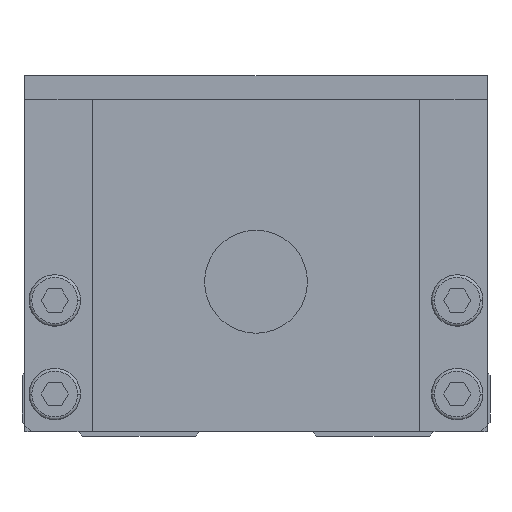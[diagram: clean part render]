
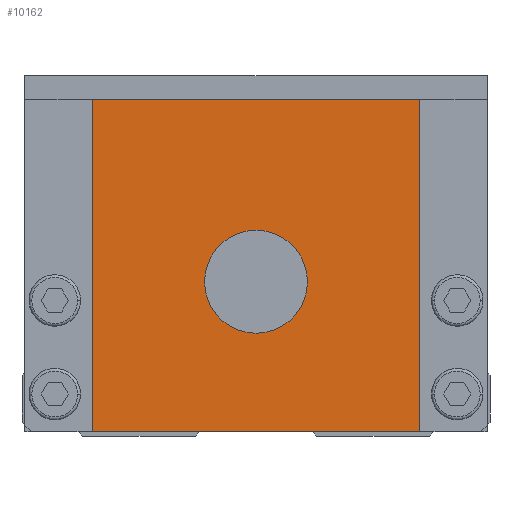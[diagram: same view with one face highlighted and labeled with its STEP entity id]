
A CAD part, front view. The second image highlights one B-rep face of the part: STEP entity #10162.
In plain terms, the highlighted planar face has unit normal (0, -1, 0).
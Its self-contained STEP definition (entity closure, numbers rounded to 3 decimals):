
#4122=EDGE_CURVE('',#9472,#8546,#11155,.T.);
#5362=VERTEX_POINT('',#12543);
#5474=VERTEX_POINT('',#12665);
#6438=EDGE_CURVE('',#5474,#9472,#13746,.T.);
#6750=EDGE_CURVE('',#8546,#7068,#14080,.T.);
#7068=VERTEX_POINT('',#14423);
#7526=EDGE_CURVE('',#10046,#5362,#14940,.T.);
#7992=EDGE_CURVE('',#5474,#7068,#15459,.T.);
#8546=VERTEX_POINT('',#16078);
#9472=VERTEX_POINT('',#17108);
#10046=VERTEX_POINT('',#17735);
#10162=ADVANCED_FACE('',(#17862,#17863),#17864,.F.);
#10278=EDGE_CURVE('',#5362,#10046,#17989,.T.);
#11155=LINE('',#19186,#19187);
#12543=CARTESIAN_POINT('',(5.5,0.0,16.5));
#12665=CARTESIAN_POINT('',(-17.5,0.0,36.0));
#13746=LINE('',#22900,#22901);
#14080=LINE('',#23513,#23514);
#14423=CARTESIAN_POINT('',(-17.5,0.0,0.5));
#14940=CIRCLE('',#24740,5.5);
#15459=LINE('',#25469,#25470);
#16078=CARTESIAN_POINT('',(17.5,0.0,0.5));
#17108=CARTESIAN_POINT('',(17.5,0.0,36.0));
#17735=CARTESIAN_POINT('',(-5.5,0.0,16.5));
#17862=FACE_BOUND('',#28945,.T.);
#17863=FACE_OUTER_BOUND('',#28946,.T.);
#17864=PLANE('',#28947);
#17989=CIRCLE('',#29123,5.5);
#19186=CARTESIAN_POINT('',(17.5,0.0,18.25));
#19187=VECTOR('',#30252,1.0);
#22900=CARTESIAN_POINT('',(0.0,0.0,36.0));
#22901=VECTOR('',#33350,1.0);
#23513=CARTESIAN_POINT('',(0.0,0.0,0.5));
#23514=VECTOR('',#33637,1.0);
#24740=AXIS2_PLACEMENT_3D('',#34586,#34587,#34588);
#25469=CARTESIAN_POINT('',(-17.5,0.0,18.25));
#25470=VECTOR('',#35201,1.0);
#28945=EDGE_LOOP('',(#37890,#37891));
#28946=EDGE_LOOP('',(#37892,#37893,#37894,#37895));
#28947=AXIS2_PLACEMENT_3D('',#37896,#37897,#37898);
#29123=AXIS2_PLACEMENT_3D('',#38024,#38025,#38026);
#30252=DIRECTION('',(0.0,0.0,-1.0));
#33350=DIRECTION('',(1.0,0.0,0.0));
#33637=DIRECTION('',(-1.0,0.0,0.0));
#34586=CARTESIAN_POINT('',(0.0,0.0,16.5));
#34587=DIRECTION('',(-0.0,1.0,0.0));
#34588=DIRECTION('',(1.0,0.0,0.0));
#35201=DIRECTION('',(0.0,0.0,-1.0));
#37890=ORIENTED_EDGE('',*,*,#10278,.T.);
#37891=ORIENTED_EDGE('',*,*,#7526,.T.);
#37892=ORIENTED_EDGE('',*,*,#7992,.T.);
#37893=ORIENTED_EDGE('',*,*,#6750,.F.);
#37894=ORIENTED_EDGE('',*,*,#4122,.F.);
#37895=ORIENTED_EDGE('',*,*,#6438,.F.);
#37896=CARTESIAN_POINT('',(0.0,0.0,18.25));
#37897=DIRECTION('',(0.0,1.0,0.0));
#37898=DIRECTION('',(0.0,0.0,1.0));
#38024=CARTESIAN_POINT('',(0.0,0.0,16.5));
#38025=DIRECTION('',(-0.0,1.0,0.0));
#38026=DIRECTION('',(1.0,0.0,0.0));
